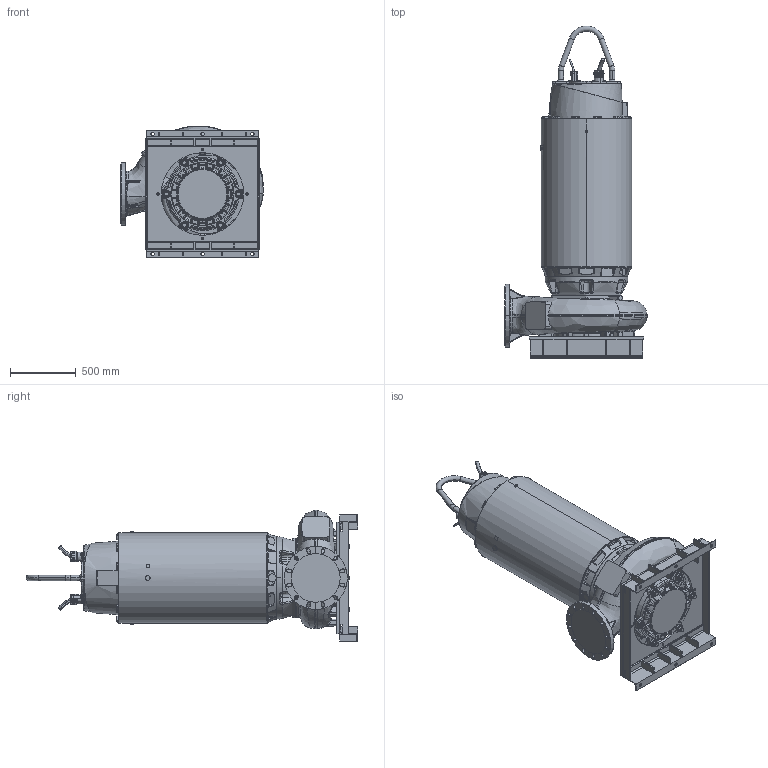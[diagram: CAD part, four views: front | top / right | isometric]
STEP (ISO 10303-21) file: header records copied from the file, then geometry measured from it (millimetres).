
FILE_DESCRIPTION (( 'STEP AP214' ), '1' );
FILE_NAME ('PE6_XFP305M-CB2_DRY_B_NG2.STEP', '2017-03-21T08:57:52', ( '' ), ( '' ), 'SwSTEP 2.0', 'SolidWorks 2017', '' );
FILE_SCHEMA (( 'AUTOMOTIVE_DESIGN' ));
Length unit declared in the file: millimetre
Products named in the file (1): PE6_XFP305M-CB2_DRY_B_NG2
Bounding box: 1089.63 x 2529 x 1005.19 mm (x, y, z)
Volume: 16213023.4 mm3; surface area: 8971540.5 mm2
Topology: 33 solids, 34 shells, 4597 faces, 11358 edges, 6663 vertices
Faces by surface type: bspline 1217, plane 1185, cylinder 938, cone 583, torus 498, sphere 176
Entity records: 262262 total; most frequent: CARTESIAN_POINT 113243, ORIENTED_EDGE 22194, DIRECTION 18522, EDGE_CURVE 11097, AXIS2_PLACEMENT_3D 7487, VERTEX_POINT 6657, EDGE_LOOP 4868, UNCERTAINTY_MEASURE_WITH_UNIT 4603
